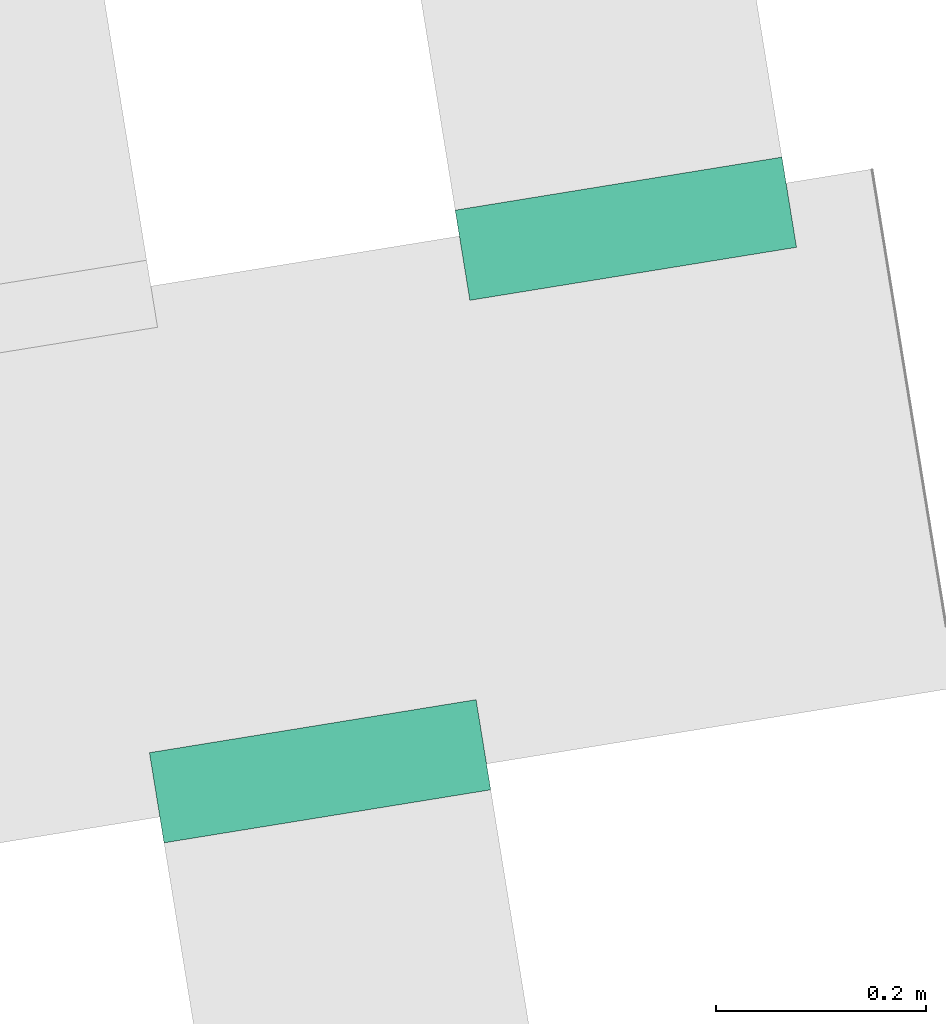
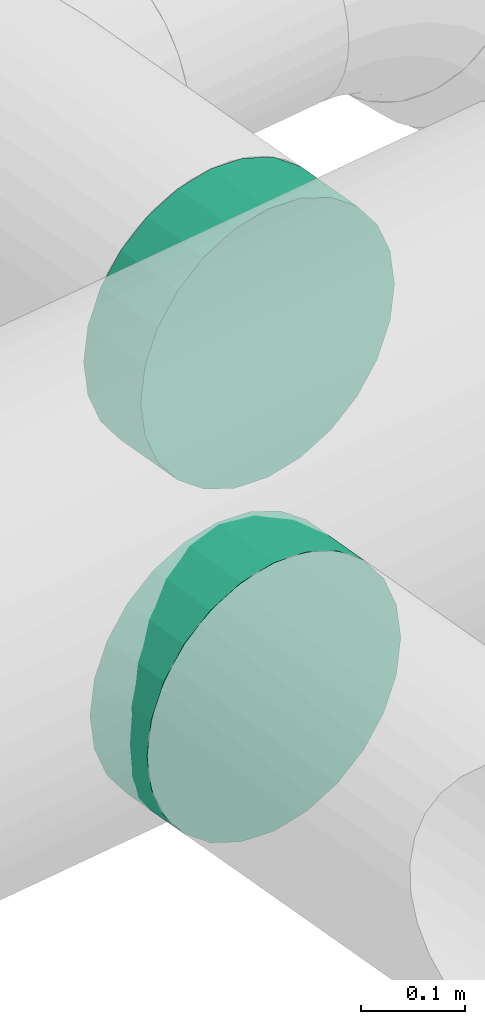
# One storey, part 20 of 39: 2 flow fittings.
"""IFC2X3 building model written with IfcOpenShell, lengths in millimetres."""

from ifc_helpers import new_model, entity, si_unit, converted_unit, derived_unit, direction, frame, origin, origin_with_axes, place, context, subcontext, project, spatial, faceted_brep, source, transform, mapped, material, type_object, element, save


model = new_model("IFC2X3")

# Units and contexts
model_context = context("Model", 3, precision=0.01, world=origin(), true_north=direction((6.12323399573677e-17, 1.0)))
plan_context = context("Plan", 3, precision=1e-05, world=origin_with_axes())
body_context = subcontext(model_context, "Body", "Model", "MODEL_VIEW")
ifc_project = project(units=[converted_unit("PLANEANGLEUNIT", "DEGREE", entity("IfcPositiveLengthMeasure", 0.0174532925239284), si_unit("PLANEANGLEUNIT", "RADIAN"), dimensions=[0, 0, 0, 0, 0, 0, 0]), si_unit("AREAUNIT", "SQUARE_METRE"), si_unit("LENGTHUNIT", "METRE", prefix="MILLI"), si_unit("MASSUNIT", "GRAM", prefix="KILO"), si_unit("POWERUNIT", "WATT"), si_unit("PRESSUREUNIT", "PASCAL", prefix="KILO"), si_unit("FORCEUNIT", "NEWTON", prefix="KILO"), si_unit("ELECTRICVOLTAGEUNIT", "VOLT"), si_unit("ELECTRICCURRENTUNIT", "AMPERE"), si_unit("THERMODYNAMICTEMPERATUREUNIT", "DEGREE_CELSIUS"), si_unit("TIMEUNIT", "SECOND"), si_unit("VOLUMEUNIT", "CUBIC_METRE"), derived_unit("LINEARVELOCITYUNIT", [(si_unit("LENGTHUNIT", "METRE"), 1), (si_unit("TIMEUNIT", "SECOND"), -1)]), derived_unit("VOLUMETRICFLOWRATEUNIT", [(si_unit("VOLUMEUNIT", "CUBIC_METRE"), 1), (si_unit("TIMEUNIT", "SECOND"), -1)]), derived_unit("THERMALTRANSMITTANCEUNIT", [(si_unit("POWERUNIT", "WATT"), 1), (si_unit("THERMODYNAMICTEMPERATUREUNIT", "KELVIN"), -1), (si_unit("AREAUNIT", "SQUARE_METRE"), -1)]), derived_unit("SOUNDPRESSUREUNIT", [(si_unit("PRESSUREUNIT", "PASCAL"), 1)])], contexts=[model_context, plan_context])

# Site, building, storey
site_placement = place(None, frame((-0.00071070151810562, 0.00438415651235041, 0.0), z_axis=(0.0, 0.0, 1.0), x_axis=(-0.160236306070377, 0.987078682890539, 0.0)))
site = spatial("IfcSite", under=ifc_project, at=site_placement, Name="Default", CompositionType="ELEMENT")
building_placement = place(site_placement, origin_with_axes())
building = spatial("IfcBuilding", under=site, at=building_placement, CompositionType="ELEMENT")
storey_placement = place(building_placement, frame((0.0, 0.0, 50999.9999999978), z_axis=(0.0, 0.0, 1.0), x_axis=(1.0, 0.0, 0.0)))
storey = spatial("IfcBuildingStorey", under=building, at=storey_placement, Name="Nivå D", CompositionType="ELEMENT", Elevation=50999.9999999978)

# Flow fittings
ifc_material = material(Name="<Unnamed>")
duct_fitting_type = type_object("IfcDuctFittingType", Name="magicirc_tapoutlet_1:magicirc_tapoutlet_001", PredefinedType="NOTDEFINED", material=ifc_material)
shared_shape = source(origin(), body_context, "Body", "Brep", [
    faceted_brep([(-61.9472168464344, 0.0, -157.500000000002), (-61.9472168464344, -40.7639996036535, -152.133317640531), (-61.9472168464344, -78.7500000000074, -136.399001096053), (-61.9472168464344, -111.36931803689, -111.369318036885), (-61.9472168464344, -136.399001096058, -78.7500000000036), (-61.9472168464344, -152.133317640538, -40.7639996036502), (-61.9472168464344, -157.500000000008, 0.0), (-61.9472168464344, -152.133317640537, 40.7639996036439), (-61.9472168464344, -136.399001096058, 78.749999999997), (-61.9472168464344, -111.36931803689, 111.369318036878), (-61.9472168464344, -78.7500000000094, 136.399001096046), (-61.9472168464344, -40.7639996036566, 152.133317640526), (-61.9472168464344, 0.0, 157.499999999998), (-61.9472168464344, 40.7639996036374, 152.133317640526), (-61.9472168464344, 78.7499999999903, 136.399001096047), (-61.9472168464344, 111.369318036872, 111.36931803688), (-61.9472168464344, 136.39900109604, 78.7499999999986), (-61.9472168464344, 152.133317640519, 40.7639996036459), (-61.9472168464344, 157.499999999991, 0.0), (-61.9472168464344, 152.13331764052, -40.7639996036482), (-61.9472168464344, 136.399001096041, -78.7500000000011), (-61.9472168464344, 111.369318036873, -111.369318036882), (-61.9472168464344, 78.7499999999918, -136.39900109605), (-61.9472168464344, 40.763999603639, -152.133317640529), (0.0, 0.0, 157.499999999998), (25.0, 0.0, 157.499999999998), (25.0, 40.7639996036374, 152.133317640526), (0.0, 40.7639996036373, 152.133317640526), (25.0, 78.7499999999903, 136.399001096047), (0.0, 78.7499999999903, 136.399001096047), (25.0, 111.369318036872, 111.36931803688), (0.0, 111.369318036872, 111.36931803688), (0.0, 136.39900109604, 78.7499999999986), (25.0, 136.39900109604, 78.7499999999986), (25.0, 152.133317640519, 40.7639996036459), (0.0, 152.133317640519, 40.7639996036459), (25.0, 157.499999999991, 0.0), (0.0, 157.499999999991, 0.0), (25.0, 152.13331764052, -40.7639996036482), (0.0, 152.13331764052, -40.7639996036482), (25.0, 136.399001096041, -78.7500000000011), (0.0, 136.399001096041, -78.7500000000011), (25.0, 111.369318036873, -111.369318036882), (0.0, 111.369318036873, -111.369318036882), (0.0, 78.7499999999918, -136.39900109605), (25.0, 78.7499999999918, -136.39900109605), (25.0, 40.763999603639, -152.133317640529), (0.0, 40.763999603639, -152.133317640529), (25.0, 0.0, -157.500000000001), (0.0, 0.0, -157.500000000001), (25.0, -40.7639996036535, -152.133317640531), (0.0, -40.7639996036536, -152.133317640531), (25.0, -78.7500000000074, -136.399001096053), (0.0, -78.7500000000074, -136.399001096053), (25.0, -111.36931803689, -111.369318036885), (0.0, -111.36931803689, -111.369318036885), (0.0, -152.133317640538, -40.7639996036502), (25.0, -152.133317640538, -40.7639996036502), (25.0, -157.50000000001, 0.0), (0.0, -157.50000000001, 0.0), (0.0, -136.399001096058, -78.7500000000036), (25.0, -136.399001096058, -78.7500000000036), (25.0, -152.133317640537, 40.7639996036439), (0.0, -152.133317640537, 40.7639996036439), (25.0, -136.399001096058, 78.749999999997), (0.0, -136.399001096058, 78.749999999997), (25.0, -111.36931803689, 111.369318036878), (0.0, -111.36931803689, 111.369318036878), (0.0, -78.7500000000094, 136.399001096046), (25.0, -78.7500000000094, 136.399001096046), (25.0, -40.7639996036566, 152.133317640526), (0.0, -40.7639996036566, 152.133317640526)], [[[0, 1, 2, 3, 4, 5, 6, 7, 8, 9, 10, 11, 12, 13, 14, 15, 16, 17, 18, 19, 20, 21, 22, 23]], [[12, 24, 25, 26, 27, 13]], [[13, 27, 26, 28, 29, 14]], [[14, 29, 28, 30, 31, 15]], [[16, 32, 33, 34, 35, 17]], [[17, 35, 34, 36, 37, 18]], [[15, 31, 30, 33, 32, 16]], [[18, 37, 36, 38, 39, 19]], [[19, 39, 38, 40, 41, 20]], [[20, 41, 40, 42, 43, 21]], [[23, 22, 44, 45, 46, 47]], [[0, 23, 47, 46, 48, 49]], [[21, 43, 42, 45, 44, 22]], [[0, 49, 48, 50, 51, 1]], [[1, 51, 50, 52, 53, 2]], [[2, 53, 52, 54, 55, 3]], [[56, 57, 58, 59, 6, 5]], [[60, 61, 57, 56, 5, 4]], [[3, 55, 54, 61, 60, 4]], [[6, 59, 58, 62, 63, 7]], [[7, 63, 62, 64, 65, 8]], [[8, 65, 64, 66, 67, 9]], [[10, 68, 69, 70, 71, 11]], [[11, 71, 70, 25, 24, 12]], [[9, 67, 66, 69, 68, 10]], [[46, 45, 42, 40, 38, 36, 34, 33, 30, 28, 26, 25, 70, 69, 66, 64, 62, 58, 57, 61, 54, 52, 50, 48]]]),
    faceted_brep([(25.0, 40.763999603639, -152.133317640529), (25.0, 78.7499999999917, -136.39900109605), (25.0, 111.369318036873, -111.369318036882), (25.0, 136.399001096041, -78.7500000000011), (25.0, 152.13331764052, -40.7639996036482), (25.0, 157.499999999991, 0.0), (25.0, 152.133317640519, 40.7639996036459), (25.0, 136.399001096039, 78.7499999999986), (25.0, 111.369318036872, 111.36931803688), (25.0, 78.7499999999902, 136.399001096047), (25.0, 40.7639996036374, 152.133317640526), (25.0, 0.0, 157.499999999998), (25.0, -40.7639996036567, 152.133317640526), (25.0, -78.7500000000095, 136.399001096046), (25.0, -111.369318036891, 111.369318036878), (25.0, -136.399001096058, 78.749999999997), (25.0, -152.133317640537, 40.7639996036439), (25.0, -157.50000000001, 0.0), (25.0, -152.133317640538, -40.7639996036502), (25.0, -136.399001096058, -78.7500000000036), (25.0, -111.36931803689, -111.369318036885), (25.0, -78.7500000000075, -136.399001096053), (25.0, -40.7639996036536, -152.133317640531), (25.0, 0.0, -157.500000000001), (0.0, 0.0, 157.499999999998), (0.0, 40.7639996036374, 152.133317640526), (-61.9472168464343, 40.7639996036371, 152.133317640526), (-61.9472168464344, 0.0, 157.499999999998), (0.0, 78.7499999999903, 136.399001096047), (-61.9472168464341, 78.74999999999, 136.399001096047), (0.0, 111.369318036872, 111.36931803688), (-61.947216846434, 111.369318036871, 111.36931803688), (0.0, 136.39900109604, 78.7499999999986), (0.0, 152.133317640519, 40.7639996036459), (-61.9472168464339, 152.133317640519, 40.7639996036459), (-61.9472168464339, 136.399001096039, 78.7499999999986), (0.0, 157.499999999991, 0.0), (-61.9472168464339, 157.499999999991, 0.0), (0.0, 152.13331764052, -40.7639996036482), (-61.9472168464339, 152.133317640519, -40.7639996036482), (0.0, 136.399001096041, -78.7500000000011), (-61.9472168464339, 136.39900109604, -78.7500000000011), (0.0, 111.369318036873, -111.369318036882), (-61.947216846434, 111.369318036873, -111.369318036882), (0.0, 0.0, -157.500000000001), (-61.9472168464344, 0.0, -157.500000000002), (-61.9472168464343, 40.7639996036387, -152.133317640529), (0.0, 40.763999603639, -152.133317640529), (-61.9472168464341, 78.7499999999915, -136.39900109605), (0.0, 78.7499999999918, -136.39900109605), (0.0, -40.7639996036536, -152.133317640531), (-61.9472168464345, -40.7639996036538, -152.133317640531), (0.0, -78.7500000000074, -136.399001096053), (-61.9472168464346, -78.7500000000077, -136.399001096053), (0.0, -111.36931803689, -111.369318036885), (-61.9472168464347, -111.36931803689, -111.369318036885), (0.0, -136.399001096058, -78.7500000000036), (0.0, -152.133317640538, -40.7639996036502), (-61.9472168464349, -152.133317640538, -40.7639996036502), (-61.9472168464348, -136.399001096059, -78.7500000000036), (0.0, -157.50000000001, 0.0), (-61.9472168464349, -157.500000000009, 0.0), (0.0, -152.133317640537, 40.763999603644), (-61.9472168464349, -152.133317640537, 40.7639996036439), (0.0, -136.399001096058, 78.749999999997), (-61.9472168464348, -136.399001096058, 78.749999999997), (0.0, -111.36931803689, 111.369318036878), (-61.9472168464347, -111.369318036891, 111.369318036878), (0.0, -78.7500000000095, 136.399001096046), (0.0, -40.7639996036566, 152.133317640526), (-61.9472168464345, -40.7639996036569, 152.133317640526), (-61.9472168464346, -78.7500000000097, 136.399001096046)], [[[0, 1, 2, 3, 4, 5, 6, 7, 8, 9, 10, 11, 12, 13, 14, 15, 16, 17, 18, 19, 20, 21, 22, 23]], [[24, 11, 10, 25, 26, 27]], [[25, 10, 9, 28, 29, 26]], [[28, 9, 8, 30, 31, 29]], [[32, 7, 6, 33, 34, 35]], [[33, 6, 5, 36, 37, 34]], [[30, 8, 7, 32, 35, 31]], [[36, 5, 4, 38, 39, 37]], [[38, 4, 3, 40, 41, 39]], [[40, 3, 2, 42, 43, 41]], [[0, 23, 44, 45, 46, 47]], [[1, 0, 47, 46, 48, 49]], [[49, 48, 43, 42, 2, 1]], [[44, 23, 22, 50, 51, 45]], [[50, 22, 21, 52, 53, 51]], [[52, 21, 20, 54, 55, 53]], [[56, 19, 18, 57, 58, 59]], [[57, 18, 17, 60, 61, 58]], [[54, 20, 19, 56, 59, 55]], [[60, 17, 16, 62, 63, 61]], [[62, 16, 15, 64, 65, 63]], [[64, 15, 14, 66, 67, 65]], [[68, 13, 12, 69, 70, 71]], [[69, 12, 11, 24, 27, 70]], [[66, 14, 13, 68, 71, 67]], [[45, 51, 53, 55, 59, 58, 61, 63, 65, 67, 71, 70, 27, 26, 29, 31, 35, 34, 37, 39, 41, 43, 48, 46]]]),
    faceted_brep([(-61.9472168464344, 0.0, -157.500000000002), (-61.9472168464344, -40.7639996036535, -152.133317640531), (-61.9472168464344, -78.7500000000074, -136.399001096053), (-61.9472168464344, -111.36931803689, -111.369318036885), (-61.9472168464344, -136.399001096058, -78.7500000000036), (-61.9472168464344, -152.133317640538, -40.7639996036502), (-61.9472168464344, -157.500000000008, 0.0), (-61.9472168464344, -152.133317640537, 40.7639996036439), (-61.9472168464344, -136.399001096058, 78.749999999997), (-61.9472168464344, -111.36931803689, 111.369318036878), (-61.9472168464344, -78.7500000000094, 136.399001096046), (-61.9472168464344, -40.7639996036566, 152.133317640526), (-61.9472168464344, 0.0, 157.499999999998), (-61.9472168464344, 40.7639996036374, 152.133317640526), (-61.9472168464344, 78.7499999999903, 136.399001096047), (-61.9472168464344, 111.369318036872, 111.36931803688), (-61.9472168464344, 136.39900109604, 78.7499999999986), (-61.9472168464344, 152.133317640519, 40.7639996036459), (-61.9472168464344, 157.499999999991, 0.0), (-61.9472168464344, 152.13331764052, -40.7639996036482), (-61.9472168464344, 136.399001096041, -78.7500000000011), (-61.9472168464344, 111.369318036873, -111.369318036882), (-61.9472168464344, 78.7499999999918, -136.39900109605), (-61.9472168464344, 40.763999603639, -152.133317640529), (0.0, 0.0, 157.499999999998), (25.0, 0.0, 157.499999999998), (25.0, 40.7639996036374, 152.133317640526), (0.0, 40.7639996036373, 152.133317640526), (25.0, 78.7499999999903, 136.399001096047), (0.0, 78.7499999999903, 136.399001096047), (25.0, 111.369318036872, 111.36931803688), (0.0, 111.369318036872, 111.36931803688), (0.0, 136.39900109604, 78.7499999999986), (25.0, 136.39900109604, 78.7499999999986), (25.0, 152.133317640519, 40.7639996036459), (0.0, 152.133317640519, 40.7639996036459), (25.0, 157.499999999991, 0.0), (0.0, 157.499999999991, 0.0), (25.0, 152.13331764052, -40.7639996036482), (0.0, 152.13331764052, -40.7639996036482), (25.0, 136.399001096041, -78.7500000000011), (0.0, 136.399001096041, -78.7500000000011), (25.0, 111.369318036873, -111.369318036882), (0.0, 111.369318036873, -111.369318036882), (0.0, 78.7499999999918, -136.39900109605), (25.0, 78.7499999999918, -136.39900109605), (25.0, 40.763999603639, -152.133317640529), (0.0, 40.763999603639, -152.133317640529), (25.0, 0.0, -157.500000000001), (0.0, 0.0, -157.500000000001), (25.0, -40.7639996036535, -152.133317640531), (0.0, -40.7639996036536, -152.133317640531), (25.0, -78.7500000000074, -136.399001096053), (0.0, -78.7500000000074, -136.399001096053), (25.0, -111.36931803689, -111.369318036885), (0.0, -111.36931803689, -111.369318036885), (0.0, -152.133317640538, -40.7639996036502), (25.0, -152.133317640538, -40.7639996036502), (25.0, -157.50000000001, 0.0), (0.0, -157.50000000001, 0.0), (0.0, -136.399001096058, -78.7500000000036), (25.0, -136.399001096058, -78.7500000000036), (25.0, -152.133317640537, 40.7639996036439), (0.0, -152.133317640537, 40.7639996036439), (25.0, -136.399001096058, 78.749999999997), (0.0, -136.399001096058, 78.749999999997), (25.0, -111.36931803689, 111.369318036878), (0.0, -111.36931803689, 111.369318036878), (0.0, -78.7500000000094, 136.399001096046), (25.0, -78.7500000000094, 136.399001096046), (25.0, -40.7639996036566, 152.133317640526), (0.0, -40.7639996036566, 152.133317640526)], [[[0, 1, 2, 3, 4, 5, 6, 7, 8, 9, 10, 11, 12, 13, 14, 15, 16, 17, 18, 19, 20, 21, 22, 23]], [[12, 24, 25, 26, 27, 13]], [[13, 27, 26, 28, 29, 14]], [[14, 29, 28, 30, 31, 15]], [[16, 32, 33, 34, 35, 17]], [[17, 35, 34, 36, 37, 18]], [[15, 31, 30, 33, 32, 16]], [[18, 37, 36, 38, 39, 19]], [[19, 39, 38, 40, 41, 20]], [[20, 41, 40, 42, 43, 21]], [[23, 22, 44, 45, 46, 47]], [[0, 23, 47, 46, 48, 49]], [[21, 43, 42, 45, 44, 22]], [[0, 49, 48, 50, 51, 1]], [[1, 51, 50, 52, 53, 2]], [[2, 53, 52, 54, 55, 3]], [[56, 57, 58, 59, 6, 5]], [[60, 61, 57, 56, 5, 4]], [[3, 55, 54, 61, 60, 4]], [[6, 59, 58, 62, 63, 7]], [[7, 63, 62, 64, 65, 8]], [[8, 65, 64, 66, 67, 9]], [[10, 68, 69, 70, 71, 11]], [[11, 71, 70, 25, 24, 12]], [[9, 67, 66, 69, 68, 10]], [[46, 45, 42, 40, 38, 36, 34, 33, 30, 28, 26, 25, 70, 69, 66, 64, 62, 58, 57, 61, 54, 52, 50, 48]]]),
])
for number, where, z_axis, x_axis, name in (
    (1, (773264.47928963, -600012.580498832, 3310.0), (0.0, 0.0, 1.0), (1.0, 0.0, 0.0), "magicirc_tapoutlet_1:magicirc_tapoutlet_001"),
    (2, (772764.47928963, -599642.555921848, 3310.0), (0.0, 0.0, -1.0), (-1.0, 0.0, 0.0), "magicirc_tapoutlet_1:magicirc_tapoutlet_001"),
):
    element("IfcFlowFitting", number, at=place(storey_placement, frame(where, z_axis=z_axis, x_axis=x_axis)), inside=storey, type_object=duct_fitting_type, material=ifc_material, Name=name, ObjectType="magicirc_tapoutlet_1:magicirc_tapoutlet_001", context=body_context, shape_type="MappedRepresentation", body=[
        mapped(shared_shape, transform((0.0, 0.0, 0.0), scale=1.0)),
    ])

save(model, "model.ifc")
